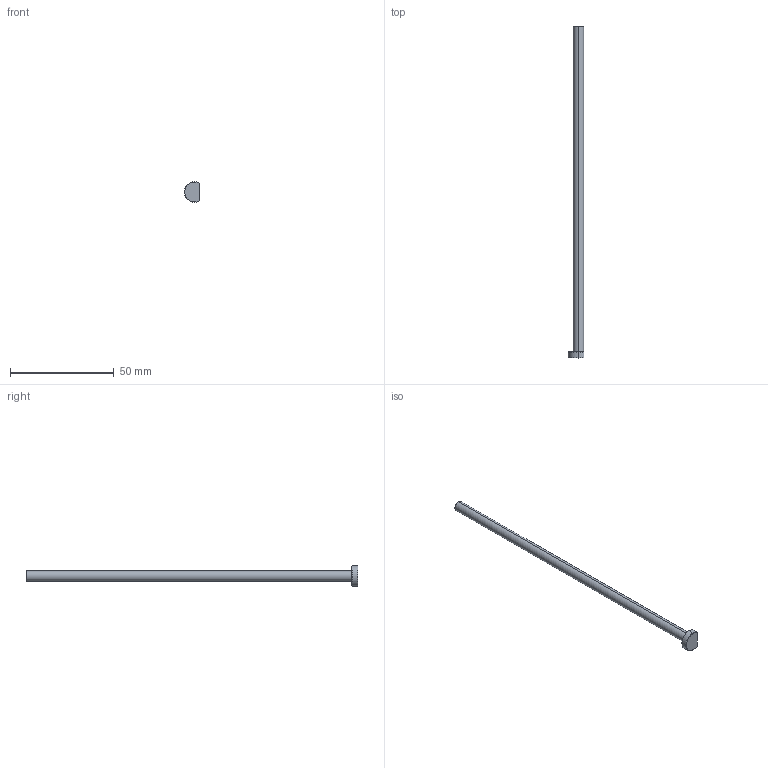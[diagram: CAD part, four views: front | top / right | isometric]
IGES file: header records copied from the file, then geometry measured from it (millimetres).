
Start section: SolidWorks IGES file using analytic representation for surfaces
Global section: file name: C:\Users\365admin\AppData\Local\Temp\InFlowConvert3DWorking\EPD05L160-K.igs; native system: SolidWorks 2019; preprocessor: SolidWorks 2019; author: 365admin; date: 220408.135915; units: millimetre
Bounding box: 7.5 x 160 x 10 mm (x, y, z)
Surface area: 2675 mm2 (no closed solid volume)
Topology: 0 solids, 0 shells, 18 faces, 195 edges, 195 vertices
Faces by surface type: revolution 11, bspline 7
